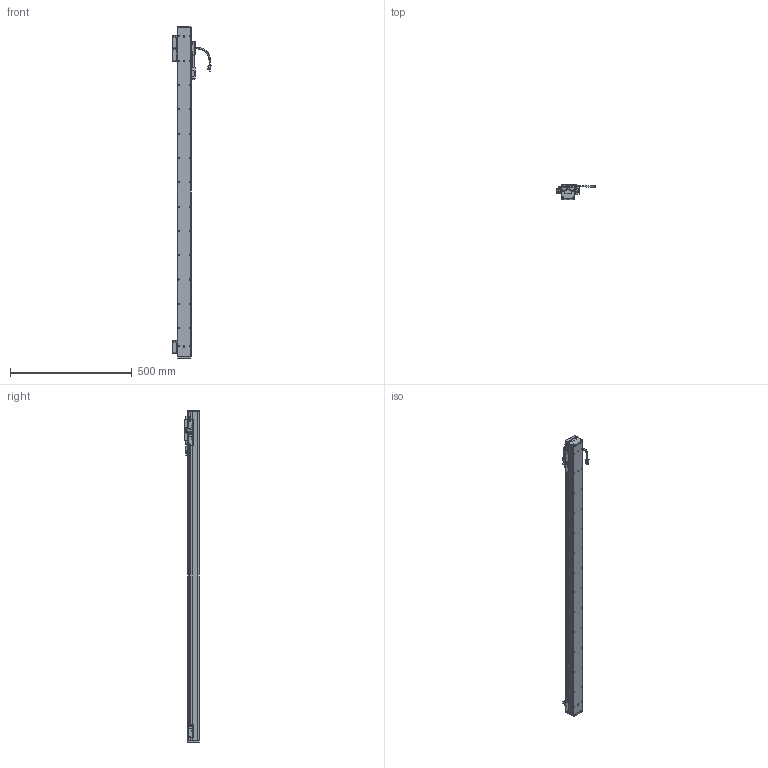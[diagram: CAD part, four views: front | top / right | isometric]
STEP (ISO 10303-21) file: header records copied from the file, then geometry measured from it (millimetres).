
FILE_DESCRIPTION(('Open CASCADE Model'),'2;1');
FILE_NAME('Open CASCADE Shape Model','2025-11-07T00:54:38',('Author'),( 'Open CASCADE'),'Open CASCADE STEP processor 7.6','Open CASCADE 7.6' ,'Unknown');
FILE_SCHEMA(('AUTOMOTIVE_DESIGN { 1 0 10303 214 1 1 1 1 }'));
Length unit declared in the file: millimetre
Products named in the file (25): Open CASCADE STEP translator 7.6 67; Open CASCADE STEP translator 7.6 67.1; Open CASCADE STEP translator 7.6 67.2; Open CASCADE STEP translator 7.6 67.3; Open CASCADE STEP translator 7.6 67.4; Open CASCADE STEP translator 7.6 67.5; Open CASCADE STEP translator 7.6 67.6; Open CASCADE STEP translator 7.6 67.7; Open CASCADE STEP translator 7.6 67.8; Open CASCADE STEP translator 7.6 67.9; Open CASCADE STEP translator 7.6 67.10; Open CASCADE STEP translator 7.6 67.11; Open CASCADE STEP translator 7.6 67.12; Open CASCADE STEP translator 7.6 67.13; Open CASCADE STEP translator 7.6 67.14; Open CASCADE STEP translator 7.6 67.14.1; Open CASCADE STEP translator 7.6 67.14.1.1; Open CASCADE STEP translator 7.6 67.14.1.2; Open CASCADE STEP translator 7.6 67.14.1.3; Open CASCADE STEP translator 7.6 67.14.1.4; Open CASCADE STEP translator 7.6 67.14.1.5; Open CASCADE STEP translator 7.6 67.15; Open CASCADE STEP translator 7.6 67.16; Open CASCADE STEP translator 7.6 67.17; Open CASCADE STEP translator 7.6 67.18
Assembly tree (24 placements, depth 4):
  Open CASCADE STEP translator 7.6 67
    Open CASCADE STEP translator 7.6 67.1
    Open CASCADE STEP translator 7.6 67.2
    Open CASCADE STEP translator 7.6 67.3
    Open CASCADE STEP translator 7.6 67.4
    Open CASCADE STEP translator 7.6 67.5
    Open CASCADE STEP translator 7.6 67.6
    Open CASCADE STEP translator 7.6 67.7
    Open CASCADE STEP translator 7.6 67.8
    Open CASCADE STEP translator 7.6 67.9
    Open CASCADE STEP translator 7.6 67.10
    Open CASCADE STEP translator 7.6 67.11
    Open CASCADE STEP translator 7.6 67.12
    Open CASCADE STEP translator 7.6 67.13
    Open CASCADE STEP translator 7.6 67.14
      Open CASCADE STEP translator 7.6 67.14.1
        Open CASCADE STEP translator 7.6 67.14.1.1
        Open CASCADE STEP translator 7.6 67.14.1.2
        Open CASCADE STEP translator 7.6 67.14.1.3
        Open CASCADE STEP translator 7.6 67.14.1.4
        Open CASCADE STEP translator 7.6 67.14.1.5
    Open CASCADE STEP translator 7.6 67.15
    Open CASCADE STEP translator 7.6 67.16
    Open CASCADE STEP translator 7.6 67.17
    Open CASCADE STEP translator 7.6 67.18
Bounding box: 158 x 60 x 1366 mm (x, y, z)
Volume: 3648035.6 mm3; surface area: 435032.7 mm2
Topology: 22 solids, 23 shells, 1949 faces, 4857 edges, 3080 vertices
Faces by surface type: plane 993, cylinder 744, bspline 112, cone 84, torus 16
Entity records: 148278 total; most frequent: CARTESIAN_POINT 52739, DIRECTION 17534, LINE 10647, VECTOR 10647, ORIENTED_EDGE 9580, PCURVE 9580, DEFINITIONAL_REPRESENTATION 9580, EDGE_CURVE 4790
